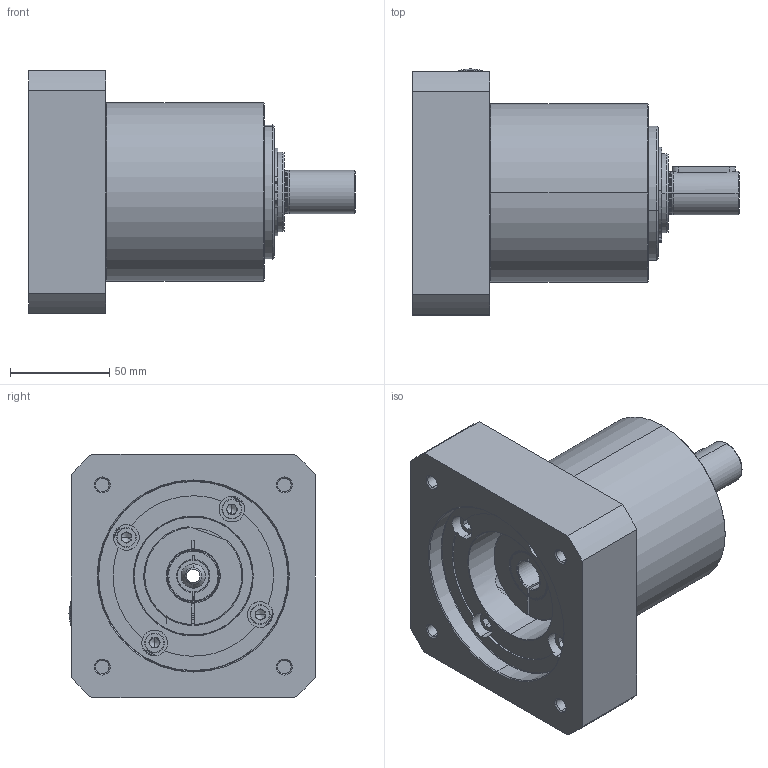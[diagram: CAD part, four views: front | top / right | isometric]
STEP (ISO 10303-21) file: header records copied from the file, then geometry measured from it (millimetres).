
FILE_DESCRIPTION (( 'STEP AP214' ), '1' );
FILE_NAME ('AL-020-0RR-FFF-MMM-S-LL-XXX-CXX-0000.STEP', '2019-10-23T15:27:02', ( '' ), ( '' ), 'SwSTEP 2.0', 'SolidWorks 2019', '' );
FILE_SCHEMA (( 'AUTOMOTIVE_DESIGN' ));
Length unit declared in the file: millimetre
Products named in the file (1): AL-020-0RR-FFF-MMM-S-LL-XXX-CXX-0000
Bounding box: 165 x 124.27 x 123 mm (x, y, z)
Surface area: 96289.2 mm2 (no closed solid volume)
Topology: 0 solids, 18 shells, 245 faces, 763 edges, 515 vertices
Faces by surface type: cylinder 79, plane 74, cone 56, torus 32, bspline 2, sphere 2
Entity records: 11512 total; most frequent: CARTESIAN_POINT 2085, DIRECTION 1483, ORIENTED_EDGE 1237, EDGE_CURVE 755, AXIS2_PLACEMENT_3D 580, VERTEX_POINT 515, CIRCLE 336, VECTOR 323
